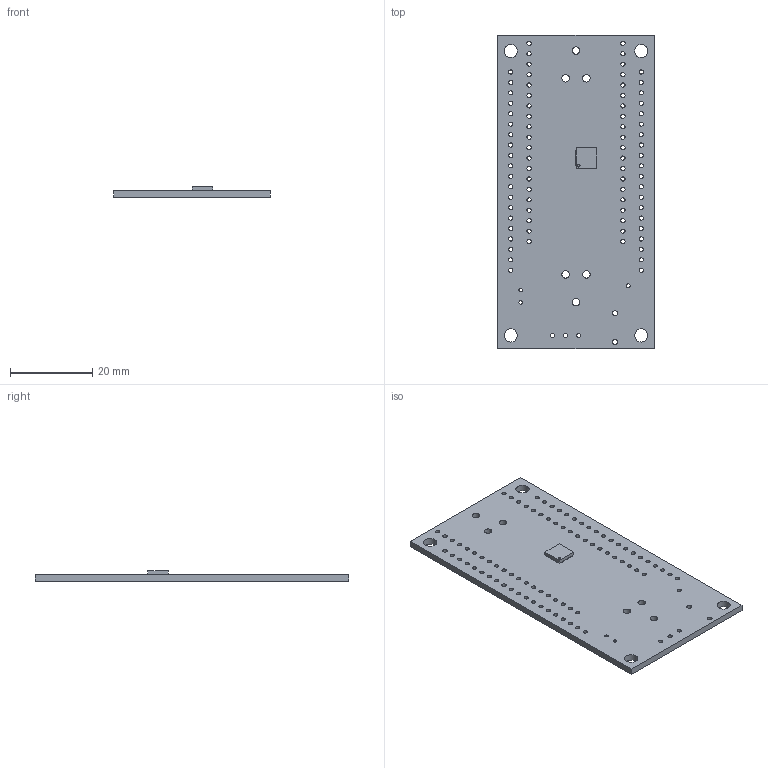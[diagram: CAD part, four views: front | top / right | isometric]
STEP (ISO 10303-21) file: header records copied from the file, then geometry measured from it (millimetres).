
FILE_DESCRIPTION(('KiCad electronic assembly'),'2;1');
FILE_NAME('ESP32ThingAudio_Pants.step','2019-08-22T21:43:39',( 'An Author'),('A Company'),'Open CASCADE STEP processor 6.9', 'KiCad to STEP converter','Unknown');
FILE_SCHEMA(('AUTOMOTIVE_DESIGN { 1 0 10303 214 1 1 1 1 }'));
Length unit declared in the file: millimetre
Products named in the file (4): Open CASCADE STEP translator 6.9 1; SGTL5000XNAA3; COMPOUND
Assembly tree (3 placements, depth 3):
  Open CASCADE STEP translator 6.9 1
    SGTL5000XNAA3
      COMPOUND
    COMPOUND
Bounding box: 38.1 x 76.2 x 2.55 mm (x, y, z)
Volume: 4476.8 mm3; surface area: 6605.4 mm2
Topology: 35 solids, 35 shells, 310 faces, 717 edges, 478 vertices
Faces by surface type: plane 211, cylinder 99
Full cylindrical faces by diameter (mm): 0.625 x1, 0.848 x2, 1.016 x84, 1.199 x2, 1.829 x6, 3.2 x4
Entity records: 19424 total; most frequent: CARTESIAN_POINT 4119, DIRECTION 2781, LINE 1755, VECTOR 1755, ORIENTED_EDGE 1434, PCURVE 1434, DEFINITIONAL_REPRESENTATION 1434, EDGE_CURVE 717
